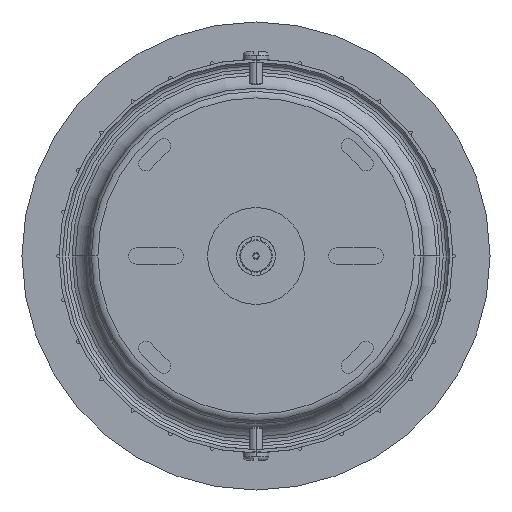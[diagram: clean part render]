
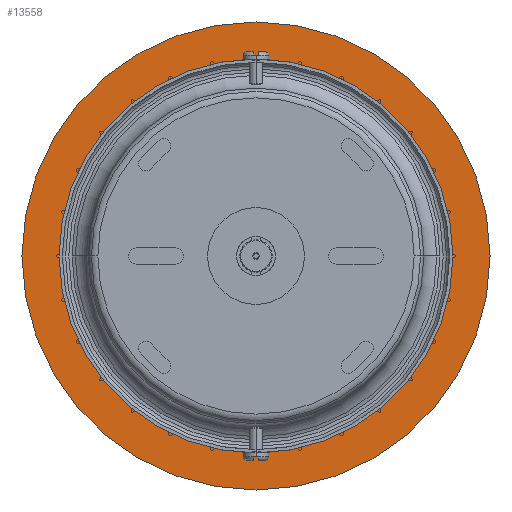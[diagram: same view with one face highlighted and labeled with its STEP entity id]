
A CAD part, front view. The second image highlights one B-rep face of the part: STEP entity #13558.
In plain terms, the highlighted planar face has unit normal (0, -1, 0).
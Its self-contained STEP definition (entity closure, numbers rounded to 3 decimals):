
#1 = CARTESIAN_POINT ( 'NONE',  ( 0., -2., 0. ) ) ;
#91 = FACE_BOUND ( 'NONE', #962, .T. ) ;
#100 = DIRECTION ( 'NONE',  ( 0., 1., 0. ) ) ;
#817 = CARTESIAN_POINT ( 'NONE',  ( 0., -2., 0. ) ) ;
#962 = EDGE_LOOP ( 'NONE', ( #1143, #7308 ) ) ;
#1095 = EDGE_CURVE ( 'NONE', #2700, #6587, #8894, .T. ) ;
#1143 = ORIENTED_EDGE ( 'NONE', *, *, #11978, .T. ) ;
#2700 = VERTEX_POINT ( 'NONE', #13179 ) ;
#2817 = ORIENTED_EDGE ( 'NONE', *, *, #2955, .F. ) ;
#2955 = EDGE_CURVE ( 'NONE', #6587, #2700, #13120, .T. ) ;
#2992 = AXIS2_PLACEMENT_3D ( 'NONE', #9919, #8874, #3158 ) ;
#3158 = DIRECTION ( 'NONE',  ( 0., 0., 1. ) ) ;
#5070 = EDGE_LOOP ( 'NONE', ( #2817, #10457 ) ) ;
#5941 = DIRECTION ( 'NONE',  ( 0., 0., 1. ) ) ;
#6100 = CIRCLE ( 'NONE', #6797, 5.25 ) ;
#6190 = AXIS2_PLACEMENT_3D ( 'NONE', #817, #14420, #8725 ) ;
#6587 = VERTEX_POINT ( 'NONE', #10377 ) ;
#6797 = AXIS2_PLACEMENT_3D ( 'NONE', #11567, #12698, #5941 ) ;
#7009 = CIRCLE ( 'NONE', #6190, 5.25 ) ;
#7308 = ORIENTED_EDGE ( 'NONE', *, *, #7958, .T. ) ;
#7792 = PLANE ( 'NONE',  #2992 ) ;
#7958 = EDGE_CURVE ( 'NONE', #8776, #8546, #7009, .T. ) ;
#8546 = VERTEX_POINT ( 'NONE', #10161 ) ;
#8725 = DIRECTION ( 'NONE',  ( 0., 0., 1. ) ) ;
#8776 = VERTEX_POINT ( 'NONE', #11523 ) ;
#8874 = DIRECTION ( 'NONE',  ( 0., 1., 0. ) ) ;
#8894 = CIRCLE ( 'NONE', #10555, 72.5 ) ;
#8962 = DIRECTION ( 'NONE',  ( 0., 0., 1. ) ) ;
#9919 = CARTESIAN_POINT ( 'NONE',  ( 0., -2., 0. ) ) ;
#10161 = CARTESIAN_POINT ( 'NONE',  ( 0., -2., 5.25 ) ) ;
#10377 = CARTESIAN_POINT ( 'NONE',  ( 0., -2., 72.5 ) ) ;
#10457 = ORIENTED_EDGE ( 'NONE', *, *, #1095, .F. ) ;
#10497 = CARTESIAN_POINT ( 'NONE',  ( 0., -2., 0. ) ) ;
#10499 = AXIS2_PLACEMENT_3D ( 'NONE', #10497, #12564, #13711 ) ;
#10555 = AXIS2_PLACEMENT_3D ( 'NONE', #1, #100, #8962 ) ;
#11523 = CARTESIAN_POINT ( 'NONE',  ( 0., -2., -5.25 ) ) ;
#11567 = CARTESIAN_POINT ( 'NONE',  ( 0., -2., 0. ) ) ;
#11978 = EDGE_CURVE ( 'NONE', #8546, #8776, #6100, .T. ) ;
#12564 = DIRECTION ( 'NONE',  ( 0., 1., 0. ) ) ;
#12698 = DIRECTION ( 'NONE',  ( 0., 1., 0. ) ) ;
#13120 = CIRCLE ( 'NONE', #10499, 72.5 ) ;
#13179 = CARTESIAN_POINT ( 'NONE',  ( 0., -2., -72.5 ) ) ;
#13558 = ADVANCED_FACE ( 'NONE', ( #91, #14019 ), #7792, .F. ) ;
#13711 = DIRECTION ( 'NONE',  ( 0., 0., 1. ) ) ;
#14019 = FACE_OUTER_BOUND ( 'NONE', #5070, .T. ) ;
#14420 = DIRECTION ( 'NONE',  ( 0., 1., 0. ) ) ;
